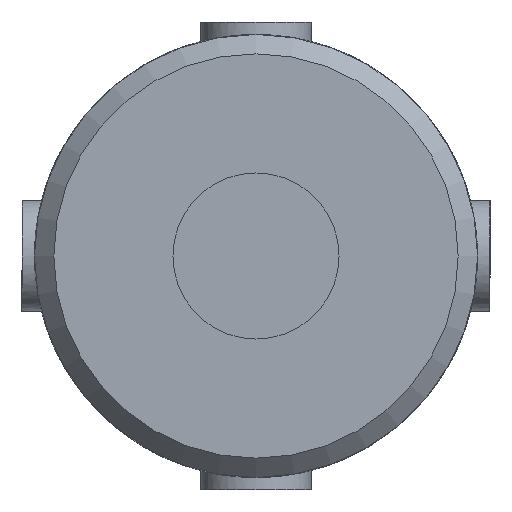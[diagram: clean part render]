
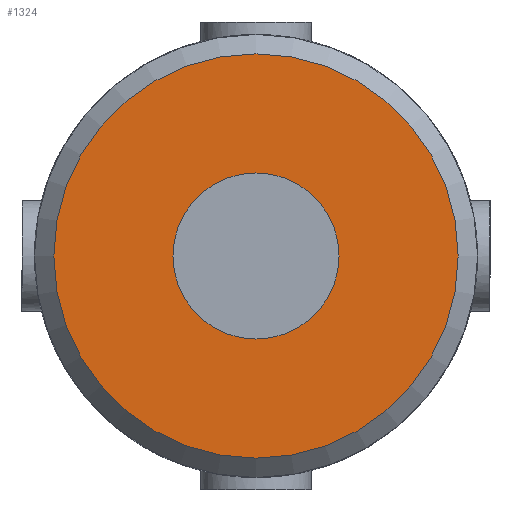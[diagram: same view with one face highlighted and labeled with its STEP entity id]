
A CAD part, front view. The second image highlights one B-rep face of the part: STEP entity #1324.
In plain terms, the highlighted planar face has unit normal (0, -1, 0).
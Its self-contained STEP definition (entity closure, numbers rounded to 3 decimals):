
#196=PLANE('',#1455);
#308=FACE_BOUND('',#485,.T.);
#374=FACE_OUTER_BOUND('',#484,.T.);
#484=EDGE_LOOP('',(#1155));
#485=EDGE_LOOP('',(#1156));
#552=CIRCLE('',#1450,3.);
#554=CIRCLE('',#1453,7.3);
#664=VERTEX_POINT('',#2587);
#666=VERTEX_POINT('',#2592);
#831=EDGE_CURVE('',#664,#664,#552,.T.);
#833=EDGE_CURVE('',#666,#666,#554,.T.);
#1155=ORIENTED_EDGE('',*,*,#833,.F.);
#1156=ORIENTED_EDGE('',*,*,#831,.T.);
#1324=ADVANCED_FACE('',(#374,#308),#196,.F.);
#1450=AXIS2_PLACEMENT_3D('',#2588,#1736,#1737);
#1453=AXIS2_PLACEMENT_3D('',#2593,#1742,#1743);
#1455=AXIS2_PLACEMENT_3D('',#2761,#1750,#1751);
#1736=DIRECTION('center_axis',(0.,1.,0.));
#1737=DIRECTION('ref_axis',(-1.,0.,0.));
#1742=DIRECTION('center_axis',(0.,1.,0.));
#1743=DIRECTION('ref_axis',(1.,0.,0.));
#1750=DIRECTION('center_axis',(0.,1.,0.));
#1751=DIRECTION('ref_axis',(0.,0.,1.));
#2587=CARTESIAN_POINT('',(3.,-21.,0.));
#2588=CARTESIAN_POINT('Origin',(0.,-21.,0.));
#2592=CARTESIAN_POINT('',(-7.3,-21.,0.));
#2593=CARTESIAN_POINT('Origin',(0.,-21.,0.));
#2761=CARTESIAN_POINT('Origin',(0.,-21.,0.));
